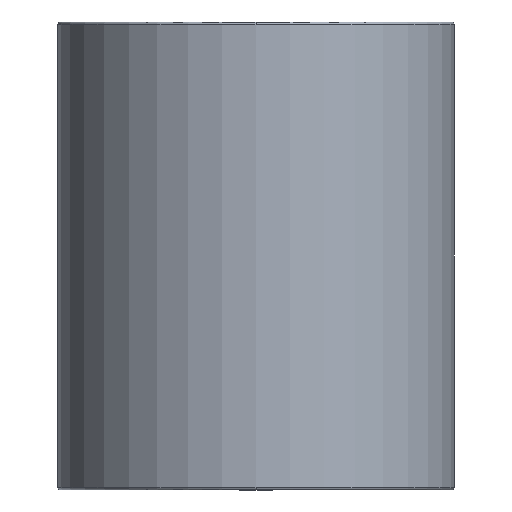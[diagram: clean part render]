
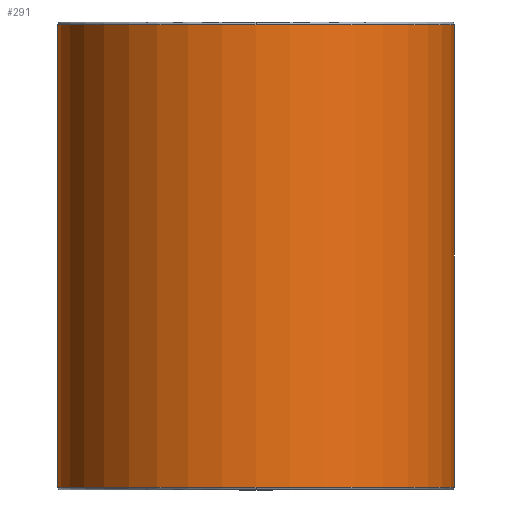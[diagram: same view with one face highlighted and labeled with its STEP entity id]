
A CAD part, front view. The second image highlights one B-rep face of the part: STEP entity #291.
In plain terms, the highlighted cylindrical face has radius 29.625 mm (diameter 59.25 mm), a partial arc.
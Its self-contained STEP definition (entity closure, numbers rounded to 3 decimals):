
#196=CARTESIAN_POINT('',(0.0,-29.625,41.1));
#197=VERTEX_POINT('',#196);
#223=CARTESIAN_POINT('',(-29.625,0.,41.1));
#224=VERTEX_POINT('',#223);
#232=CARTESIAN_POINT('',(0.0,0.,41.1));
#233=DIRECTION('',(0.0,0.0,1.0));
#234=DIRECTION('',(1.0,0.0,0.0));
#235=AXIS2_PLACEMENT_3D('',#232,#233,#234);
#236=CIRCLE('',#235,29.625);
#237=EDGE_CURVE('',#224,#197,#236,.T.);
#242=CARTESIAN_POINT('',(0.0,0.,6.5));
#243=DIRECTION('',(0.0,0.,1.0));
#244=DIRECTION('',(1.0,0.0,0.0));
#245=AXIS2_PLACEMENT_3D('',#242,#243,#244);
#246=CYLINDRICAL_SURFACE('',#245,29.625);
#247=CARTESIAN_POINT('',(29.625,0.,41.1));
#248=VERTEX_POINT('',#247);
#249=CARTESIAN_POINT('',(29.625,0.,-28.1));
#250=VERTEX_POINT('',#249);
#251=CARTESIAN_POINT('',(29.625,0.,41.1));
#252=DIRECTION('',(0.0,0.0,-1.0));
#253=VECTOR('',#252,69.2);
#254=LINE('',#251,#253);
#255=EDGE_CURVE('',#248,#250,#254,.T.);
#256=ORIENTED_EDGE('',*,*,#255,.F.);
#257=CARTESIAN_POINT('',(0.0,0.,41.1));
#258=DIRECTION('',(0.0,0.0,1.0));
#259=DIRECTION('',(1.0,0.0,0.0));
#260=AXIS2_PLACEMENT_3D('',#257,#258,#259);
#261=CIRCLE('',#260,29.625);
#262=EDGE_CURVE('',#197,#248,#261,.T.);
#263=ORIENTED_EDGE('',*,*,#262,.F.);
#264=ORIENTED_EDGE('',*,*,#237,.F.);
#265=CARTESIAN_POINT('',(-29.625,0.,-28.1));
#266=VERTEX_POINT('',#265);
#267=CARTESIAN_POINT('',(-29.625,0.,41.1));
#268=DIRECTION('',(0.0,0.0,-1.0));
#269=VECTOR('',#268,69.2);
#270=LINE('',#267,#269);
#271=EDGE_CURVE('',#224,#266,#270,.T.);
#272=ORIENTED_EDGE('',*,*,#271,.T.);
#273=CARTESIAN_POINT('',(0.0,-29.625,-28.1));
#274=VERTEX_POINT('',#273);
#275=CARTESIAN_POINT('',(0.0,0.,-28.1));
#276=DIRECTION('',(0.0,0.0,1.0));
#277=DIRECTION('',(1.0,0.0,0.0));
#278=AXIS2_PLACEMENT_3D('',#275,#276,#277);
#279=CIRCLE('',#278,29.625);
#280=EDGE_CURVE('',#266,#274,#279,.T.);
#281=ORIENTED_EDGE('',*,*,#280,.T.);
#282=CARTESIAN_POINT('',(0.0,0.,-28.1));
#283=DIRECTION('',(0.0,0.0,1.0));
#284=DIRECTION('',(1.0,0.0,0.0));
#285=AXIS2_PLACEMENT_3D('',#282,#283,#284);
#286=CIRCLE('',#285,29.625);
#287=EDGE_CURVE('',#274,#250,#286,.T.);
#288=ORIENTED_EDGE('',*,*,#287,.T.);
#289=EDGE_LOOP('',(#256,#263,#264,#272,#281,#288));
#290=FACE_OUTER_BOUND('',#289,.T.);
#291=ADVANCED_FACE('',(#290),#246,.T.);
